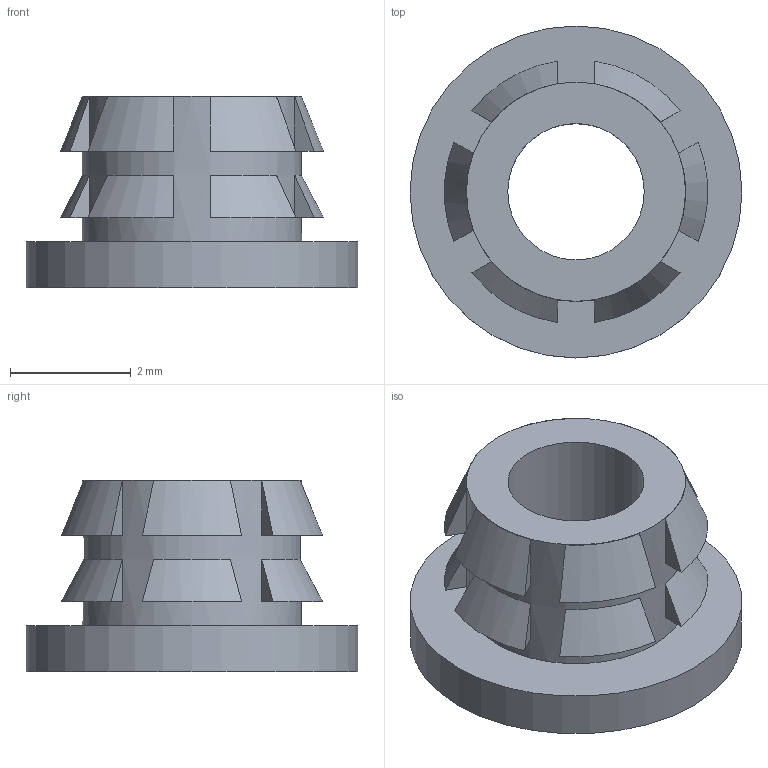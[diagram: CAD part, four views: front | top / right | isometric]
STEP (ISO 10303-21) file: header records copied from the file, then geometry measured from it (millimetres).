
FILE_DESCRIPTION (( 'STEP AP214' ), '1' );
FILE_NAME ('flanged insert 4-40 S2.STEP', '2017-08-09T10:37:09', ( '微软用户' ), ( '微软中国' ), 'SwSTEP 2.0', 'SolidWorks 2015', '' );
FILE_SCHEMA (( 'AUTOMOTIVE_DESIGN' ));
Length unit declared in the file: millimetre
Products named in the file (1): flanged insert 4-40  S2
Bounding box: 5.5 x 5.5 x 3.17 mm (x, y, z)
Volume: 31.5 mm3; surface area: 114.5 mm2
Topology: 1 solids, 1 shells, 55 faces, 126 edges, 84 vertices
Faces by surface type: plane 39, torus 12, cylinder 3, cone 1
Full cylindrical faces by diameter (mm): 2.261 x1, 3.632 x1, 5.5 x1
Entity records: 1585 total; most frequent: CARTESIAN_POINT 346, DIRECTION 246, ORIENTED_EDGE 230, EDGE_CURVE 115, AXIS2_PLACEMENT_3D 99, VERTEX_POINT 79, EDGE_LOOP 74, FACE_OUTER_BOUND 58
